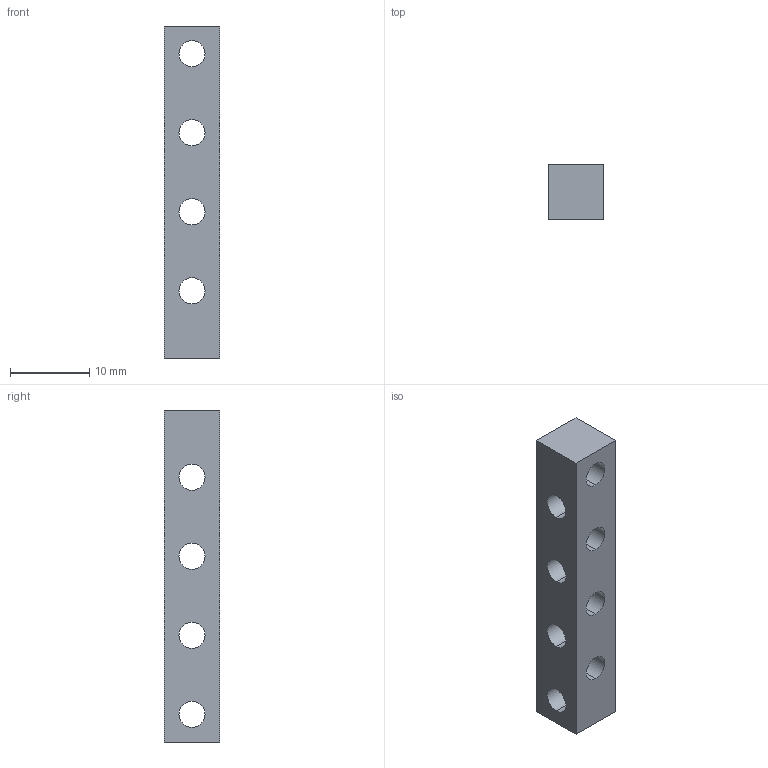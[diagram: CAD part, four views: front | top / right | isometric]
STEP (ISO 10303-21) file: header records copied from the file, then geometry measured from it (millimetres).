
FILE_DESCRIPTION (( 'STEP AP214' ), '1' );
FILE_NAME ('7mm_NutStrip_short_R1.STEP', '2019-10-05T04:23:50', ( 'Kurtis' ), ( '' ), 'SwSTEP 2.0', 'SolidWorks 2015', '' );
FILE_SCHEMA (( 'AUTOMOTIVE_DESIGN' ));
Length unit declared in the file: millimetre
Products named in the file (1): 7mm_NutStrip_short_R1
Bounding box: 7 x 7 x 42 mm (x, y, z)
Volume: 1579 mm3; surface area: 1717.7 mm2
Topology: 1 solids, 1 shells, 22 faces, 60 edges, 40 vertices
Faces by surface type: cylinder 16, plane 6
Entity records: 826 total; most frequent: DIRECTION 138, CARTESIAN_POINT 123, ORIENTED_EDGE 120, EDGE_CURVE 60, AXIS2_PLACEMENT_3D 55, VERTEX_POINT 40, EDGE_LOOP 38, CIRCLE 32
